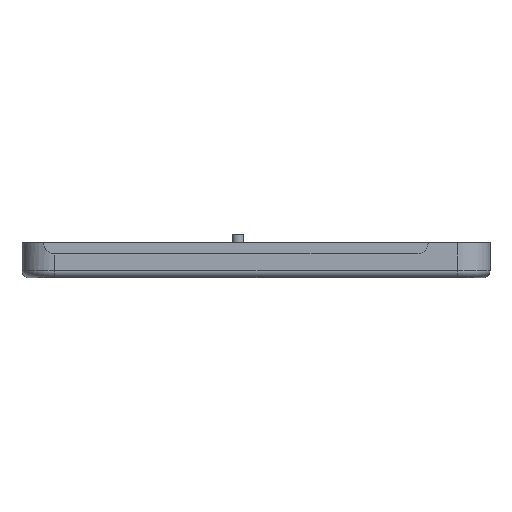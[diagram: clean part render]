
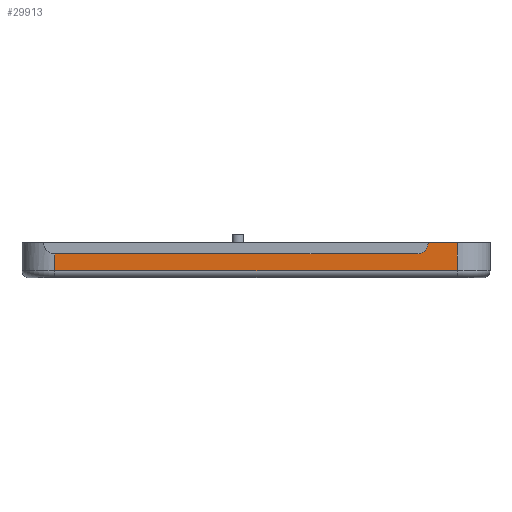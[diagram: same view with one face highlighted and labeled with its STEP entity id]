
A CAD part, left-side view. The second image highlights one B-rep face of the part: STEP entity #29913.
In plain terms, the highlighted planar face has unit normal (-1, 0, 0).
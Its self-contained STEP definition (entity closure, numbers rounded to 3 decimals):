
#72 = CYLINDRICAL_SURFACE('',#73,9.);
#73 = AXIS2_PLACEMENT_3D('',#74,#75,#76);
#74 = CARTESIAN_POINT('',(66.5,-160.35,-9.));
#75 = DIRECTION('',(0.,0.,1.));
#76 = DIRECTION('',(0.,-1.,0.));
#100 = PLANE('',#101);
#101 = AXIS2_PLACEMENT_3D('',#102,#103,#104);
#102 = CARTESIAN_POINT('',(149.55,-104.975,0.7));
#103 = DIRECTION('',(0.,0.,1.));
#104 = DIRECTION('',(1.,0.,-0.));
#9429 = VERTEX_POINT('',#9430);
#9430 = CARTESIAN_POINT('',(57.5,-160.35,0.7));
#10034 = CYLINDRICAL_SURFACE('',#10035,9.);
#10035 = AXIS2_PLACEMENT_3D('',#10036,#10037,#10038);
#10036 = CARTESIAN_POINT('',(66.5,-49.6,-9.));
#10037 = DIRECTION('',(0.,0.,1.));
#10038 = DIRECTION('',(-0.,1.,0.));
#10099 = VERTEX_POINT('',#10100);
#10100 = CARTESIAN_POINT('',(57.5,-152.3,0.7));
#10113 = PLANE('',#10114);
#10114 = AXIS2_PLACEMENT_3D('',#10115,#10116,#10117);
#10115 = CARTESIAN_POINT('',(56.5,-152.3,-2.44));
#10116 = DIRECTION('',(0.,1.,0.));
#10117 = DIRECTION('',(0.,0.,1.));
#10124 = EDGE_CURVE('',#10099,#9429,#10125,.T.);
#10125 = SURFACE_CURVE('',#10126,(#10130,#10137),.PCURVE_S1.);
#10126 = LINE('',#10127,#10128);
#10127 = CARTESIAN_POINT('',(57.5,-40.6,0.7));
#10128 = VECTOR('',#10129,1.);
#10129 = DIRECTION('',(0.,-1.,0.));
#10130 = PCURVE('',#100,#10131);
#10131 = DEFINITIONAL_REPRESENTATION('',(#10132),#10136);
#10132 = LINE('',#10133,#10134);
#10133 = CARTESIAN_POINT('',(-92.05,64.375));
#10134 = VECTOR('',#10135,1.);
#10135 = DIRECTION('',(0.,-1.));
#10136 = ( GEOMETRIC_REPRESENTATION_CONTEXT(2) 
PARAMETRIC_REPRESENTATION_CONTEXT() REPRESENTATION_CONTEXT('2D SPACE',''
  ) );
#10137 = PCURVE('',#10138,#10143);
#10138 = PLANE('',#10139);
#10139 = AXIS2_PLACEMENT_3D('',#10140,#10141,#10142);
#10140 = CARTESIAN_POINT('',(57.5,-40.6,-9.));
#10141 = DIRECTION('',(1.,0.,-0.));
#10142 = DIRECTION('',(0.,-1.,0.));
#10143 = DEFINITIONAL_REPRESENTATION('',(#10144),#10148);
#10144 = LINE('',#10145,#10146);
#10145 = CARTESIAN_POINT('',(0.,-9.7));
#10146 = VECTOR('',#10147,1.);
#10147 = DIRECTION('',(1.,0.));
#10148 = ( GEOMETRIC_REPRESENTATION_CONTEXT(2) 
PARAMETRIC_REPRESENTATION_CONTEXT() REPRESENTATION_CONTEXT('2D SPACE',''
  ) );
#16960 = VERTEX_POINT('',#16961);
#16961 = CARTESIAN_POINT('',(57.5,-160.35,-7.));
#16983 = EDGE_CURVE('',#16960,#9429,#16984,.T.);
#16984 = SURFACE_CURVE('',#16985,(#16989,#16996),.PCURVE_S1.);
#16985 = LINE('',#16986,#16987);
#16986 = CARTESIAN_POINT('',(57.5,-160.35,-9.));
#16987 = VECTOR('',#16988,1.);
#16988 = DIRECTION('',(0.,0.,1.));
#16989 = PCURVE('',#72,#16990);
#16990 = DEFINITIONAL_REPRESENTATION('',(#16991),#16995);
#16991 = LINE('',#16992,#16993);
#16992 = CARTESIAN_POINT('',(-1.571,0.));
#16993 = VECTOR('',#16994,1.);
#16994 = DIRECTION('',(-0.,1.));
#16995 = ( GEOMETRIC_REPRESENTATION_CONTEXT(2) 
PARAMETRIC_REPRESENTATION_CONTEXT() REPRESENTATION_CONTEXT('2D SPACE',''
  ) );
#16996 = PCURVE('',#10138,#16997);
#16997 = DEFINITIONAL_REPRESENTATION('',(#16998),#17002);
#16998 = LINE('',#16999,#17000);
#16999 = CARTESIAN_POINT('',(119.75,0.));
#17000 = VECTOR('',#17001,1.);
#17001 = DIRECTION('',(0.,-1.));
#17002 = ( GEOMETRIC_REPRESENTATION_CONTEXT(2) 
PARAMETRIC_REPRESENTATION_CONTEXT() REPRESENTATION_CONTEXT('2D SPACE',''
  ) );
#25730 = CYLINDRICAL_SURFACE('',#25731,2.);
#25731 = AXIS2_PLACEMENT_3D('',#25732,#25733,#25734);
#25732 = CARTESIAN_POINT('',(59.5,-49.6,-7.));
#25733 = DIRECTION('',(0.,-1.,0.));
#25734 = DIRECTION('',(-1.,-0.,0.));
#29913 = ADVANCED_FACE('',(#29914),#10138,.F.);
#29914 = FACE_BOUND('',#29915,.F.);
#29915 = EDGE_LOOP('',(#29916,#29939,#29962,#29988,#30017,#30036,#30037)
  );
#29916 = ORIENTED_EDGE('',*,*,#29917,.F.);
#29917 = EDGE_CURVE('',#29918,#16960,#29920,.T.);
#29918 = VERTEX_POINT('',#29919);
#29919 = CARTESIAN_POINT('',(57.5,-49.6,-7.));
#29920 = SURFACE_CURVE('',#29921,(#29925,#29932),.PCURVE_S1.);
#29921 = LINE('',#29922,#29923);
#29922 = CARTESIAN_POINT('',(57.5,-49.6,-7.));
#29923 = VECTOR('',#29924,1.);
#29924 = DIRECTION('',(0.,-1.,0.));
#29925 = PCURVE('',#10138,#29926);
#29926 = DEFINITIONAL_REPRESENTATION('',(#29927),#29931);
#29927 = LINE('',#29928,#29929);
#29928 = CARTESIAN_POINT('',(9.,-2.));
#29929 = VECTOR('',#29930,1.);
#29930 = DIRECTION('',(1.,0.));
#29931 = ( GEOMETRIC_REPRESENTATION_CONTEXT(2) 
PARAMETRIC_REPRESENTATION_CONTEXT() REPRESENTATION_CONTEXT('2D SPACE',''
  ) );
#29932 = PCURVE('',#25730,#29933);
#29933 = DEFINITIONAL_REPRESENTATION('',(#29934),#29938);
#29934 = LINE('',#29935,#29936);
#29935 = CARTESIAN_POINT('',(0.,0.));
#29936 = VECTOR('',#29937,1.);
#29937 = DIRECTION('',(0.,1.));
#29938 = ( GEOMETRIC_REPRESENTATION_CONTEXT(2) 
PARAMETRIC_REPRESENTATION_CONTEXT() REPRESENTATION_CONTEXT('2D SPACE',''
  ) );
#29939 = ORIENTED_EDGE('',*,*,#29940,.T.);
#29940 = EDGE_CURVE('',#29918,#29941,#29943,.T.);
#29941 = VERTEX_POINT('',#29942);
#29942 = CARTESIAN_POINT('',(57.5,-49.6,-2.44));
#29943 = SURFACE_CURVE('',#29944,(#29948,#29955),.PCURVE_S1.);
#29944 = LINE('',#29945,#29946);
#29945 = CARTESIAN_POINT('',(57.5,-49.6,-9.));
#29946 = VECTOR('',#29947,1.);
#29947 = DIRECTION('',(0.,0.,1.));
#29948 = PCURVE('',#10138,#29949);
#29949 = DEFINITIONAL_REPRESENTATION('',(#29950),#29954);
#29950 = LINE('',#29951,#29952);
#29951 = CARTESIAN_POINT('',(9.,0.));
#29952 = VECTOR('',#29953,1.);
#29953 = DIRECTION('',(0.,-1.));
#29954 = ( GEOMETRIC_REPRESENTATION_CONTEXT(2) 
PARAMETRIC_REPRESENTATION_CONTEXT() REPRESENTATION_CONTEXT('2D SPACE',''
  ) );
#29955 = PCURVE('',#10034,#29956);
#29956 = DEFINITIONAL_REPRESENTATION('',(#29957),#29961);
#29957 = LINE('',#29958,#29959);
#29958 = CARTESIAN_POINT('',(1.571,0.));
#29959 = VECTOR('',#29960,1.);
#29960 = DIRECTION('',(0.,1.));
#29961 = ( GEOMETRIC_REPRESENTATION_CONTEXT(2) 
PARAMETRIC_REPRESENTATION_CONTEXT() REPRESENTATION_CONTEXT('2D SPACE',''
  ) );
#29962 = ORIENTED_EDGE('',*,*,#29963,.T.);
#29963 = EDGE_CURVE('',#29941,#29964,#29966,.T.);
#29964 = VERTEX_POINT('',#29965);
#29965 = CARTESIAN_POINT('',(57.5,-149.3,-2.44));
#29966 = SURFACE_CURVE('',#29967,(#29971,#29977),.PCURVE_S1.);
#29967 = LINE('',#29968,#29969);
#29968 = CARTESIAN_POINT('',(57.5,-96.45,-2.44));
#29969 = VECTOR('',#29970,1.);
#29970 = DIRECTION('',(0.,-1.,0.));
#29971 = PCURVE('',#10138,#29972);
#29972 = DEFINITIONAL_REPRESENTATION('',(#29973),#29976);
#29973 = B_SPLINE_CURVE_WITH_KNOTS('',1,(#29974,#29975),.UNSPECIFIED.,
  .F.,.F.,(2,2),(-46.85,52.85),.PIECEWISE_BEZIER_KNOTS.);
#29974 = CARTESIAN_POINT('',(9.,-6.56));
#29975 = CARTESIAN_POINT('',(108.7,-6.56));
#29976 = ( GEOMETRIC_REPRESENTATION_CONTEXT(2) 
PARAMETRIC_REPRESENTATION_CONTEXT() REPRESENTATION_CONTEXT('2D SPACE',''
  ) );
#29977 = PCURVE('',#29978,#29983);
#29978 = PLANE('',#29979);
#29979 = AXIS2_PLACEMENT_3D('',#29980,#29981,#29982);
#29980 = CARTESIAN_POINT('',(56.5,-152.3,-2.44));
#29981 = DIRECTION('',(0.,0.,1.));
#29982 = DIRECTION('',(1.,0.,0.));
#29983 = DEFINITIONAL_REPRESENTATION('',(#29984),#29987);
#29984 = B_SPLINE_CURVE_WITH_KNOTS('',1,(#29985,#29986),.UNSPECIFIED.,
  .F.,.F.,(2,2),(-46.85,52.85),.PIECEWISE_BEZIER_KNOTS.);
#29985 = CARTESIAN_POINT('',(1.,102.7));
#29986 = CARTESIAN_POINT('',(1.,3.));
#29987 = ( GEOMETRIC_REPRESENTATION_CONTEXT(2) 
PARAMETRIC_REPRESENTATION_CONTEXT() REPRESENTATION_CONTEXT('2D SPACE',''
  ) );
#29988 = ORIENTED_EDGE('',*,*,#29989,.F.);
#29989 = EDGE_CURVE('',#29990,#29964,#29992,.T.);
#29990 = VERTEX_POINT('',#29991);
#29991 = CARTESIAN_POINT('',(57.5,-152.3,0.56));
#29992 = SURFACE_CURVE('',#29993,(#29998,#30005),.PCURVE_S1.);
#29993 = CIRCLE('',#29994,3.);
#29994 = AXIS2_PLACEMENT_3D('',#29995,#29996,#29997);
#29995 = CARTESIAN_POINT('',(57.5,-149.3,0.56));
#29996 = DIRECTION('',(1.,0.,0.));
#29997 = DIRECTION('',(0.,-1.,0.));
#29998 = PCURVE('',#10138,#29999);
#29999 = DEFINITIONAL_REPRESENTATION('',(#30000),#30004);
#30000 = CIRCLE('',#30001,3.);
#30001 = AXIS2_PLACEMENT_2D('',#30002,#30003);
#30002 = CARTESIAN_POINT('',(108.7,-9.56));
#30003 = DIRECTION('',(1.,0.));
#30004 = ( GEOMETRIC_REPRESENTATION_CONTEXT(2) 
PARAMETRIC_REPRESENTATION_CONTEXT() REPRESENTATION_CONTEXT('2D SPACE',''
  ) );
#30005 = PCURVE('',#30006,#30011);
#30006 = CYLINDRICAL_SURFACE('',#30007,3.);
#30007 = AXIS2_PLACEMENT_3D('',#30008,#30009,#30010);
#30008 = CARTESIAN_POINT('',(56.5,-149.3,0.56));
#30009 = DIRECTION('',(1.,0.,0.));
#30010 = DIRECTION('',(0.,-1.,0.));
#30011 = DEFINITIONAL_REPRESENTATION('',(#30012),#30016);
#30012 = LINE('',#30013,#30014);
#30013 = CARTESIAN_POINT('',(0.,1.));
#30014 = VECTOR('',#30015,1.);
#30015 = DIRECTION('',(1.,0.));
#30016 = ( GEOMETRIC_REPRESENTATION_CONTEXT(2) 
PARAMETRIC_REPRESENTATION_CONTEXT() REPRESENTATION_CONTEXT('2D SPACE',''
  ) );
#30017 = ORIENTED_EDGE('',*,*,#30018,.T.);
#30018 = EDGE_CURVE('',#29990,#10099,#30019,.T.);
#30019 = SURFACE_CURVE('',#30020,(#30024,#30030),.PCURVE_S1.);
#30020 = LINE('',#30021,#30022);
#30021 = CARTESIAN_POINT('',(57.5,-152.3,-5.72));
#30022 = VECTOR('',#30023,1.);
#30023 = DIRECTION('',(0.,-0.,1.));
#30024 = PCURVE('',#10138,#30025);
#30025 = DEFINITIONAL_REPRESENTATION('',(#30026),#30029);
#30026 = B_SPLINE_CURVE_WITH_KNOTS('',1,(#30027,#30028),.UNSPECIFIED.,
  .F.,.F.,(2,2),(6.28,6.42),.PIECEWISE_BEZIER_KNOTS.);
#30027 = CARTESIAN_POINT('',(111.7,-9.56));
#30028 = CARTESIAN_POINT('',(111.7,-9.7));
#30029 = ( GEOMETRIC_REPRESENTATION_CONTEXT(2) 
PARAMETRIC_REPRESENTATION_CONTEXT() REPRESENTATION_CONTEXT('2D SPACE',''
  ) );
#30030 = PCURVE('',#10113,#30031);
#30031 = DEFINITIONAL_REPRESENTATION('',(#30032),#30035);
#30032 = B_SPLINE_CURVE_WITH_KNOTS('',1,(#30033,#30034),.UNSPECIFIED.,
  .F.,.F.,(2,2),(6.28,6.42),.PIECEWISE_BEZIER_KNOTS.);
#30033 = CARTESIAN_POINT('',(3.,1.));
#30034 = CARTESIAN_POINT('',(3.14,1.));
#30035 = ( GEOMETRIC_REPRESENTATION_CONTEXT(2) 
PARAMETRIC_REPRESENTATION_CONTEXT() REPRESENTATION_CONTEXT('2D SPACE',''
  ) );
#30036 = ORIENTED_EDGE('',*,*,#10124,.T.);
#30037 = ORIENTED_EDGE('',*,*,#16983,.F.);
